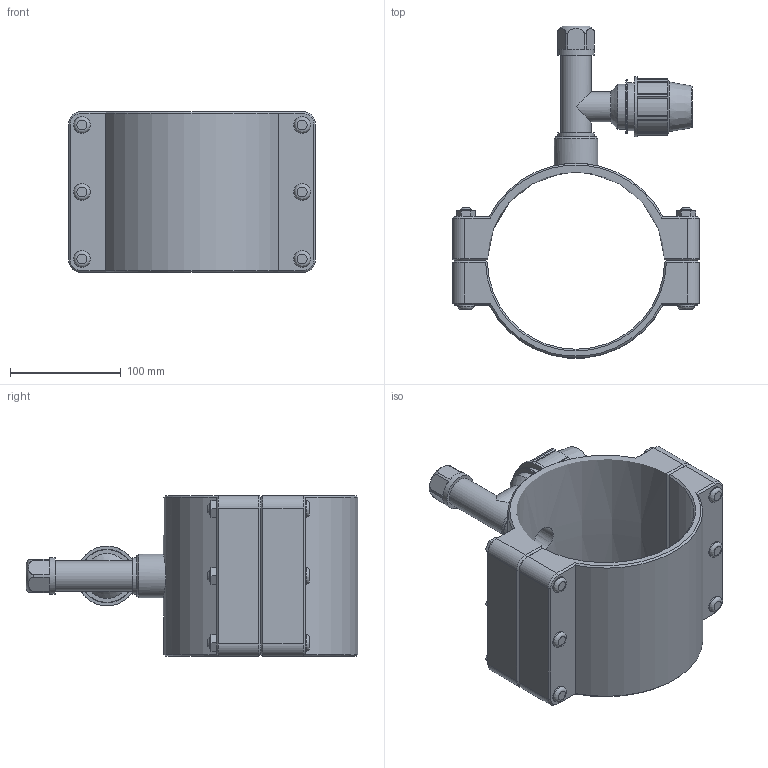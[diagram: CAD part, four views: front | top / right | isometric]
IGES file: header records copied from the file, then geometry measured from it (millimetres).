
Global section: file name: 165400160025_165406160025.ipt; native system: Autodesk Inventor 2015; preprocessor: unknown; author: KIM; date: 20170618.093950; units: millimetre
Bounding box: 223 x 299.69 x 145 mm (x, y, z)
Volume: 1351908.1 mm3; surface area: 247625.2 mm2
Topology: 1 solids, 1 shells, 260 faces, 648 edges, 422 vertices
Faces by surface type: plane 163, cylinder 48, cone 30, revolution 19
Full cylindrical faces by diameter (mm): 10 x6, 15 x12, 27.262 x2, 30.291 x1, 33.32 x2, 39.378 x1, 40.5 x1, 43.2 x1, 48.6 x1, 54 x1
